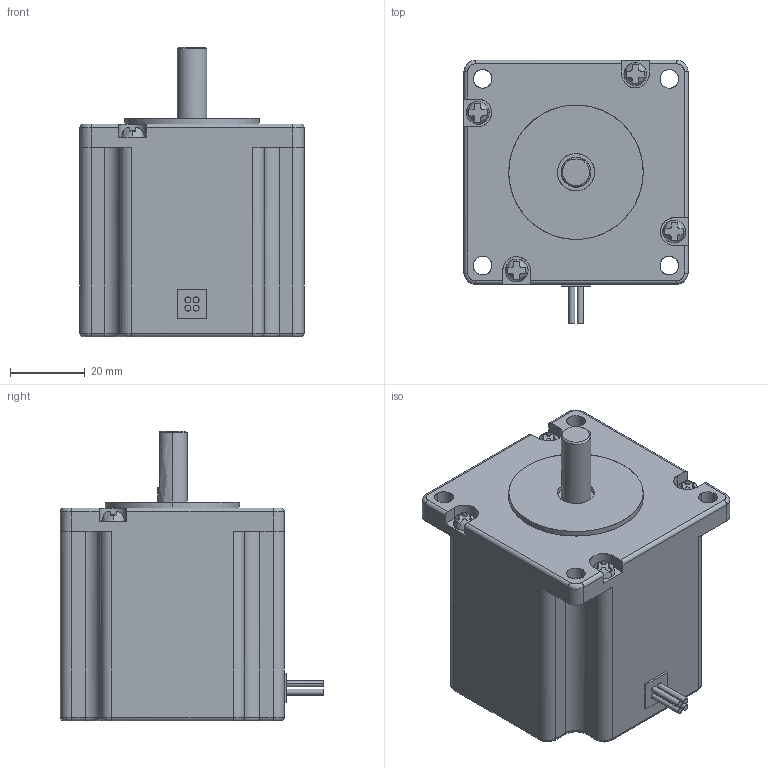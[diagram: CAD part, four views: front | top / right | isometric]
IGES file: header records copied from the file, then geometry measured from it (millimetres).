
Global section: file name: C:\DOCUME~1\PC001\BM-60M-C.igs; preprocessor: I-DEAS 3D IGES Translator 12; date: 20100107.191846; units: millimetre
Bounding box: 60 x 70.5 x 77.6 mm (x, y, z)
Surface area: 21393.7 mm2 (no closed solid volume)
Topology: 0 solids, 0 shells, 211 faces, 1136 edges, 1136 vertices
Faces by surface type: bspline 211
